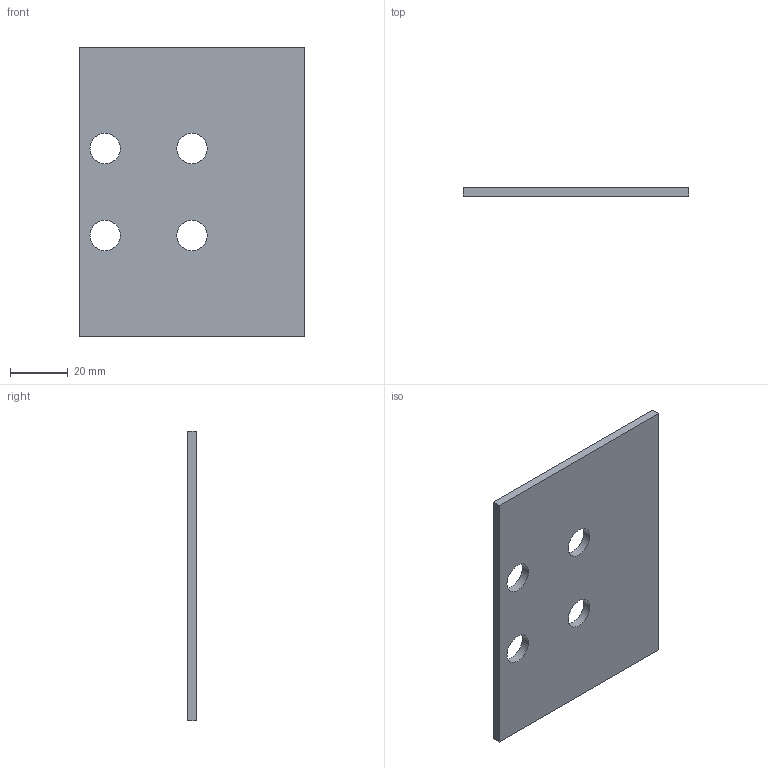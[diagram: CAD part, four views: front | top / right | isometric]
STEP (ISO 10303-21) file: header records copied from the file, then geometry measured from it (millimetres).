
FILE_DESCRIPTION( ( '' ), '1' );
FILE_NAME( 'E:/04 嬴檜蠱滌/0404 ZIMMER/040414 ZIMMER CAD download/Adapt plate/PLK for LKP, LKPS/PLK55-3.stp', '2020-04-16T10:20:02', ( '' ), ( '' ), ' ', ' ', ' ' );
FILE_SCHEMA( ( 'automotive_design' ) );
Length unit declared in the file: millimetre
Products named in the file (1): 1
Bounding box: 78 x 3 x 100 mm (x, y, z)
Volume: 22360.9 mm3; surface area: 16371.1 mm2
Topology: 1 solids, 1 shells, 14 faces, 36 edges, 24 vertices
Faces by surface type: cylinder 8, plane 6
Entity records: 888 total; most frequent: DIRECTION 82, STYLED_ITEM 75, PRESENTATION_STYLE_ASSIGNMENT 75, CARTESIAN_POINT 75, COLOUR_RGB 75, ORIENTED_EDGE 72, EDGE_CURVE 36, CURVE_STYLE 36
